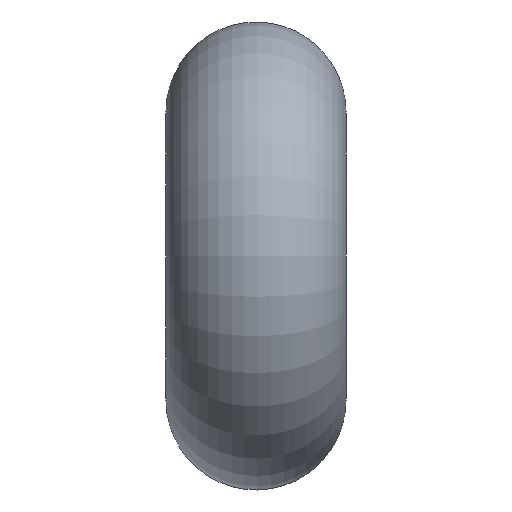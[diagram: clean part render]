
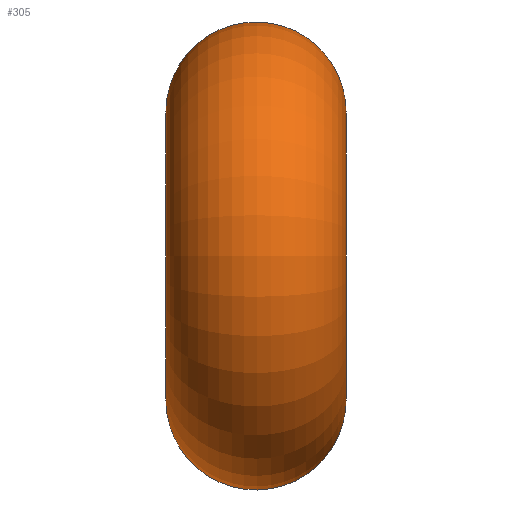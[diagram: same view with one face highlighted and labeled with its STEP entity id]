
A CAD part, left-side view. The second image highlights one B-rep face of the part: STEP entity #305.
In plain terms, the highlighted toroidal (fillet/blend) face has major radius 4 mm and minor radius 2.5 mm.
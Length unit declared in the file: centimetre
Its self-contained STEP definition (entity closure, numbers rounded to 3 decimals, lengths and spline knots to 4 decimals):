
#189=CARTESIAN_POINT('',(0.5716,0.03,-0.3081));
#190=VERTEX_POINT('',#189);
#224=CARTESIAN_POINT('',(0.5717,0.03,-0.3081));
#225=CARTESIAN_POINT('',(0.566,0.0427,-0.3205));
#226=CARTESIAN_POINT('',(0.5557,0.0733,-0.338));
#227=CARTESIAN_POINT('',(0.5438,0.1245,-0.337));
#228=CARTESIAN_POINT('',(0.5371,0.1698,-0.3094));
#229=CARTESIAN_POINT('',(0.5381,0.2018,-0.2613));
#230=CARTESIAN_POINT('',(0.5497,0.2165,-0.2012));
#231=CARTESIAN_POINT('',(0.5738,0.2106,-0.1409));
#232=CARTESIAN_POINT('',(0.5997,0.1864,-0.106));
#233=CARTESIAN_POINT('',(0.6173,0.1595,-0.0908));
#234=CARTESIAN_POINT('',(0.6283,0.137,-0.084));
#235=CARTESIAN_POINT('',(0.6367,0.1127,-0.0811));
#236=CARTESIAN_POINT('',(0.6419,0.0877,-0.0825));
#237=CARTESIAN_POINT('',(0.6437,0.0628,-0.0901));
#238=CARTESIAN_POINT('',(0.6412,0.0325,-0.1094));
#239=CARTESIAN_POINT('',(0.6303,0.0032,-0.1472));
#240=CARTESIAN_POINT('',(0.6106,-0.0115,-0.2046));
#241=CARTESIAN_POINT('',(0.5898,-0.0031,-0.2636));
#242=CARTESIAN_POINT('',(0.5773,0.0172,-0.2957));
#243=CARTESIAN_POINT('',(0.5717,0.03,-0.3081));
#244=B_SPLINE_CURVE_WITH_KNOTS('',3,(#224,#225,#226,#227,#228,#229,#230,#231,#232,#233,#234,#235,#236,#237,#238,#239,#240,#241,#242,#243),.UNSPECIFIED.,.T.,.U.,(4,1,1,1,1,1,1,1,1,1,1,1,1,1,1,1,1,4),(0.4969,0.5678,0.6388,0.7098,0.7808,0.8518,0.9227,0.9937,1.0292,1.0647,1.1002,1.1357,1.1712,1.2067,1.2776,1.3486,1.4196,1.4906),.UNSPECIFIED.);
#245=EDGE_CURVE('',#190,#190,#244,.T.);
#250=CARTESIAN_POINT('',(0.0,0.0475,0.0));
#251=DIRECTION('',(0.0,1.0,0.0));
#252=DIRECTION('',(1.0,0.0,0.0));
#253=AXIS2_PLACEMENT_3D('',#250,#251,#252);
#254=TOROIDAL_SURFACE('',#253,0.4,0.25);
#255=CARTESIAN_POINT('',(0.5716,0.065,0.3081));
#256=VERTEX_POINT('',#255);
#257=CARTESIAN_POINT('',(0.5716,0.0651,0.3081));
#258=CARTESIAN_POINT('',(0.566,0.0523,0.3205));
#259=CARTESIAN_POINT('',(0.5555,0.0218,0.3381));
#260=CARTESIAN_POINT('',(0.5402,-0.0467,0.3366));
#261=CARTESIAN_POINT('',(0.5322,-0.116,0.2681));
#262=CARTESIAN_POINT('',(0.5593,-0.1243,0.1671));
#263=CARTESIAN_POINT('',(0.5894,-0.1012,0.1198));
#264=CARTESIAN_POINT('',(0.604,-0.0847,0.1023));
#265=CARTESIAN_POINT('',(0.6173,-0.0645,0.0908));
#266=CARTESIAN_POINT('',(0.6283,-0.0419,0.0841));
#267=CARTESIAN_POINT('',(0.6366,-0.0177,0.0811));
#268=CARTESIAN_POINT('',(0.6419,0.0073,0.0825));
#269=CARTESIAN_POINT('',(0.6437,0.0322,0.0901));
#270=CARTESIAN_POINT('',(0.6412,0.0625,0.1094));
#271=CARTESIAN_POINT('',(0.6303,0.0917,0.1472));
#272=CARTESIAN_POINT('',(0.6039,0.1117,0.2237));
#273=CARTESIAN_POINT('',(0.5829,0.0906,0.2833));
#274=CARTESIAN_POINT('',(0.5716,0.0651,0.3081));
#275=B_SPLINE_CURVE_WITH_KNOTS('',3,(#257,#258,#259,#260,#261,#262,#263,#264,#265,#266,#267,#268,#269,#270,#271,#272,#273,#274),.UNSPECIFIED.,.T.,.U.,(4,1,1,1,1,1,1,1,1,1,1,1,1,1,1,4),(0.4969,0.5678,0.6388,0.7808,0.9227,0.9582,0.9937,1.0292,1.0647,1.1002,1.1357,1.1712,1.2067,1.2776,1.3486,1.4906),.UNSPECIFIED.);
#276=EDGE_CURVE('',#256,#256,#275,.T.);
#277=ORIENTED_EDGE('',*,*,#276,.F.);
#278=EDGE_LOOP('',(#277));
#279=FACE_OUTER_BOUND('',#278,.T.);
#280=CARTESIAN_POINT('',(0.4,-0.2025,0.));
#281=VERTEX_POINT('',#280);
#282=CARTESIAN_POINT('',(0.0,-0.2025,0.0));
#283=DIRECTION('',(0.0,1.0,0.0));
#284=DIRECTION('',(-1.0,0.0,0.0));
#285=AXIS2_PLACEMENT_3D('',#282,#283,#284);
#286=CIRCLE('',#285,0.4);
#287=EDGE_CURVE('',#281,#281,#286,.T.);
#288=ORIENTED_EDGE('',*,*,#287,.T.);
#289=EDGE_LOOP('',(#288));
#290=FACE_BOUND('',#289,.T.);
#291=CARTESIAN_POINT('',(0.4,0.2975,0.));
#292=VERTEX_POINT('',#291);
#293=CARTESIAN_POINT('',(0.0,0.2975,0.0));
#294=DIRECTION('',(0.0,-1.0,0.0));
#295=DIRECTION('',(-1.0,0.0,0.0));
#296=AXIS2_PLACEMENT_3D('',#293,#294,#295);
#297=CIRCLE('',#296,0.4);
#298=EDGE_CURVE('',#292,#292,#297,.T.);
#299=ORIENTED_EDGE('',*,*,#298,.T.);
#300=EDGE_LOOP('',(#299));
#301=FACE_BOUND('',#300,.T.);
#302=ORIENTED_EDGE('',*,*,#245,.F.);
#303=EDGE_LOOP('',(#302));
#304=FACE_BOUND('',#303,.T.);
#305=ADVANCED_FACE('',(#279,#290,#301,#304),#254,.T.);
